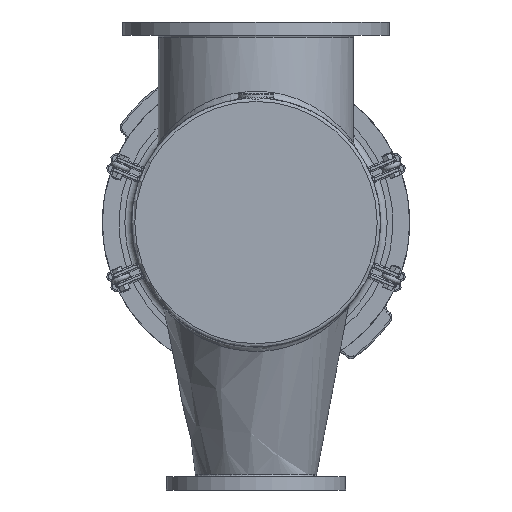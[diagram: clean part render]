
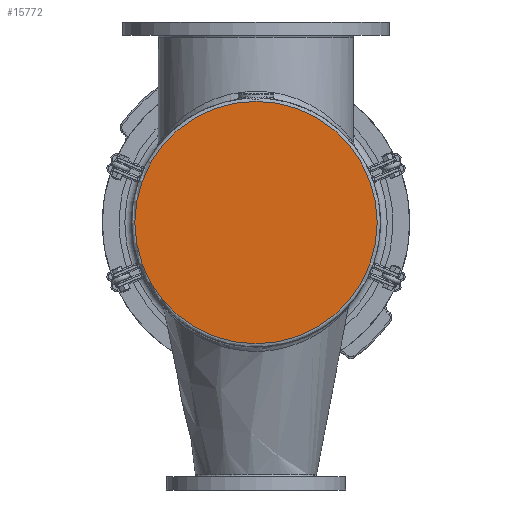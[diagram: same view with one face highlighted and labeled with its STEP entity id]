
A CAD part, front view. The second image highlights one B-rep face of the part: STEP entity #15772.
In plain terms, the highlighted planar face has unit normal (0, -1, 0).
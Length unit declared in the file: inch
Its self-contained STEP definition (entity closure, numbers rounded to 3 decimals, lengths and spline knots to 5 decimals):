
#2297=PLANE('',#16829);
#3600=FACE_OUTER_BOUND('',#4612,.T.);
#4612=EDGE_LOOP('',(#10552));
#5835=CIRCLE('',#16821,9.0625);
#6813=VERTEX_POINT('',#24114);
#8252=EDGE_CURVE('',#6813,#6813,#5835,.T.);
#10552=ORIENTED_EDGE('',*,*,#8252,.F.);
#15772=ADVANCED_FACE('',(#3600),#2297,.F.);
#16821=AXIS2_PLACEMENT_3D('',#24115,#18883,#18884);
#16829=AXIS2_PLACEMENT_3D('',#24126,#18899,#18900);
#18883=DIRECTION('center_axis',(0.,1.,0.));
#18884=DIRECTION('ref_axis',(1.,0.,0.));
#18899=DIRECTION('center_axis',(0.,1.,0.));
#18900=DIRECTION('ref_axis',(0.,0.,1.));
#24114=CARTESIAN_POINT('',(-9.0625,0.,0.));
#24115=CARTESIAN_POINT('Origin',(0.,0.,0.));
#24126=CARTESIAN_POINT('Origin',(0.,0.,0.));
